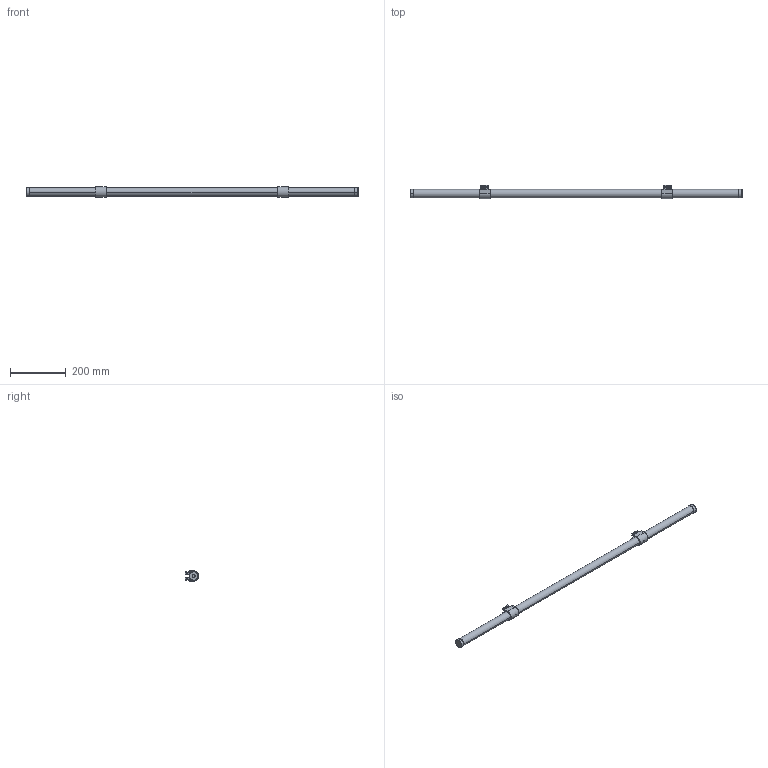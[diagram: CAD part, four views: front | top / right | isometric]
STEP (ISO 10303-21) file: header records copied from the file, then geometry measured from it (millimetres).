
FILE_DESCRIPTION (( 'STEP AP214' ), '1' );
FILE_NAME ('ACTUXXXXXXBI2XX.STEP', '2023-08-29T07:34:54', ( '' ), ( '' ), 'SwSTEP 2.0', 'SolidWorks 2023', '' );
FILE_SCHEMA (( 'AUTOMOTIVE_DESIGN' ));
Length unit declared in the file: millimetre
Products named in the file (5): WSVBPAR116235XX-00; ACTUXXXXXXBI2XX; WSCP2E0048-1400-00; WSCP2E0004-1400-02; WSCP2E0012-1400-01
Assembly tree (5 placements, depth 2):
  ACTUXXXXXXBI2XX
    WSVBPAR116235XX-00
    WSCP2E0004-1400-02  x2
    WSCP2E0048-1400-00
    WSCP2E0012-1400-01
Bounding box: 1186 x 48.15 x 36.2 mm (x, y, z)
Volume: 324410.2 mm3; surface area: 228166.3 mm2
Topology: 5 solids, 5 shells, 2078 faces, 4800 edges, 2574 vertices
Faces by surface type: bspline 936, cylinder 861, plane 263, cone 18
Entity records: 58827 total; most frequent: CARTESIAN_POINT 24897, ORIENTED_EDGE 7584, DIRECTION 6670, EDGE_CURVE 3792, AXIS2_PLACEMENT_3D 2727, VERTEX_POINT 2112, CIRCLE 1814, EDGE_LOOP 1704
